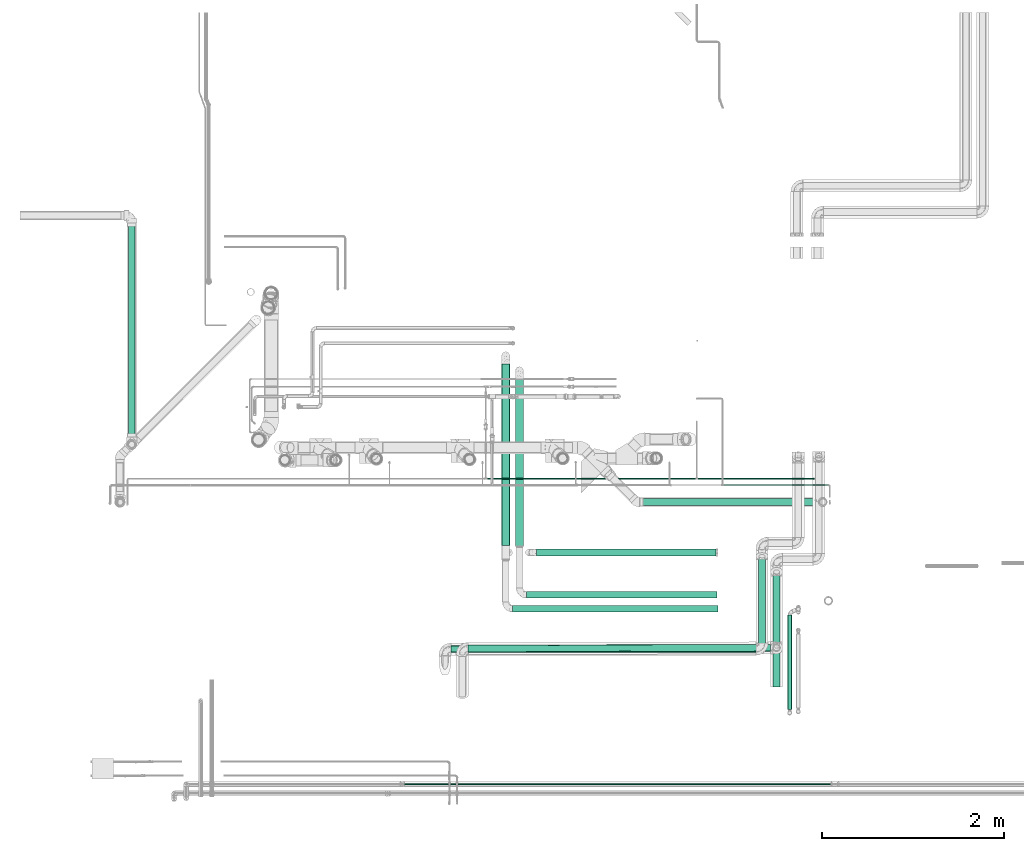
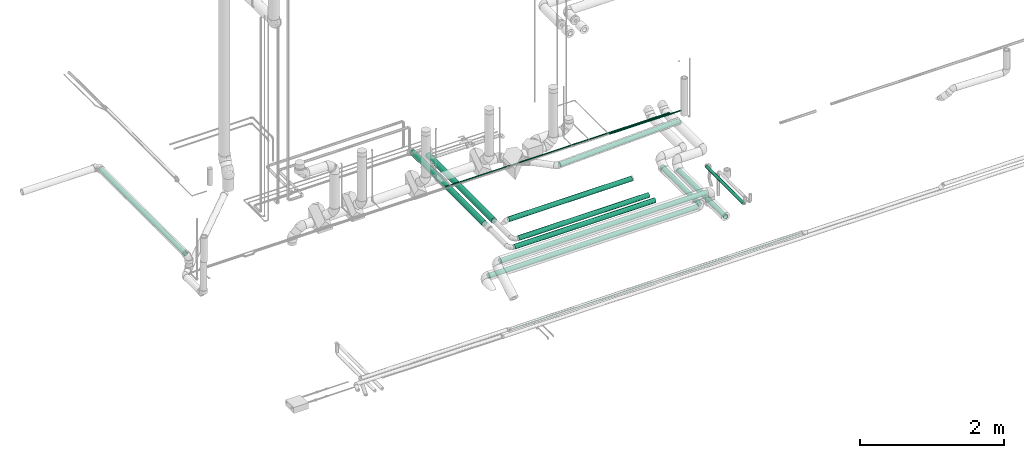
# One storey, part 46 of 156: 16 flow segments.
"""IFC2X3 building model written with IfcOpenShell, lengths in millimetres."""

from ifc_helpers import new_model, entity, si_unit, converted_unit, derived_unit, direction, frame, origin_with_axes, origin_2d_with_axis, place, context, subcontext, project, spatial, hollow_circle, extrude, source, transform, mapped, type_object, element, save


model = new_model("IFC2X3")

# Units and contexts
model_context = context("Model", 3, precision=0.01, world=frame((0.0, 4.29681676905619e-09, 0.0)), true_north=direction((4.01073788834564e-13, 1.0)))
plan_context = context("Plan", 3, precision=0.01, world=frame((0.0, 4.29681676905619e-09, 0.0)), true_north=direction((4.01073788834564e-13, 1.0)))
body_context = subcontext(model_context, "Body", "Model", "MODEL_VIEW")
ifc_project = project(units=[converted_unit("PLANEANGLEUNIT", "DEGREE", entity("IfcPositiveLengthMeasure", 0.0174532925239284), si_unit("PLANEANGLEUNIT", "RADIAN"), dimensions=[0, 0, 0, 0, 0, 0, 0]), si_unit("AREAUNIT", "SQUARE_METRE"), si_unit("LENGTHUNIT", "METRE", prefix="MILLI"), si_unit("MASSUNIT", "GRAM", prefix="KILO"), si_unit("POWERUNIT", "WATT"), si_unit("PRESSUREUNIT", "PASCAL", prefix="KILO"), si_unit("FORCEUNIT", "NEWTON", prefix="KILO"), si_unit("ELECTRICVOLTAGEUNIT", "VOLT"), si_unit("ELECTRICCURRENTUNIT", "AMPERE"), si_unit("THERMODYNAMICTEMPERATUREUNIT", "DEGREE_CELSIUS"), si_unit("TIMEUNIT", "SECOND"), si_unit("VOLUMEUNIT", "CUBIC_METRE"), derived_unit("LINEARVELOCITYUNIT", [(si_unit("LENGTHUNIT", "METRE"), 1), (si_unit("TIMEUNIT", "SECOND"), -1)]), derived_unit("VOLUMETRICFLOWRATEUNIT", [(si_unit("VOLUMEUNIT", "CUBIC_METRE"), 1), (si_unit("TIMEUNIT", "SECOND"), -1)]), derived_unit("THERMALTRANSMITTANCEUNIT", [(si_unit("POWERUNIT", "WATT"), 1), (si_unit("THERMODYNAMICTEMPERATUREUNIT", "KELVIN"), -1), (si_unit("AREAUNIT", "SQUARE_METRE"), -1)]), derived_unit("SOUNDPRESSUREUNIT", [(si_unit("PRESSUREUNIT", "PASCAL"), 1)])], contexts=[model_context, plan_context])

# Site, building, storey
site_placement = place(None, frame((0.0, -4.29681676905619e-09, 0.0), z_axis=(0.0, 0.0, 1.0), x_axis=(1.0, 0.0, 0.0)))
site = spatial("IfcSite", under=ifc_project, at=site_placement, CompositionType="ELEMENT")
building_placement = place(site_placement, frame((0.0, 4.29681676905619e-09, 0.0), z_axis=(0.0, 0.0, 1.0), x_axis=(1.0, 0.0, 0.0)))
building = spatial("IfcBuilding", under=site, at=building_placement, Name="mc-building", CompositionType="ELEMENT")
storey_placement = place(building_placement, frame((0.0, 0.0, 205200.0), z_axis=(0.0, 0.0, 1.0), x_axis=(1.0, 0.0, 0.0)))
storey = spatial("IfcBuildingStorey", under=building, at=storey_placement, Name="Nivå D + 1,2 m", CompositionType="ELEMENT", Elevation=205200.0)

# Flow segments
pipe_segment_type_1 = type_object("IfcPipeSegmentType", Name="Stålrør normaltykke", PredefinedType="RIGIDSEGMENT")
shared_shape_1 = source(origin_with_axes(), body_context, "Body", "SweptSolid", [
    extrude(hollow_circle(Radius=44.5, WallThickness=2.0, at=origin_2d_with_axis()), frame((0.0, 0.0, 0.0), z_axis=(1.0, 0.0, 0.0), x_axis=(0.0, 1.0, 0.0)), (0.0, 0.0, 1.0), 1995.6),
])
flow_segment_1_placement = place(storey_placement, frame((326883.94863, 461648.63973, 4038.0), z_axis=(0.0, 0.0, 1.0), x_axis=(0.0, 1.0, 0.0)))
element("IfcFlowSegment", 1, at=flow_segment_1_placement, inside=storey, type_object=pipe_segment_type_1, Name="Stålrør normaltykke", context=body_context, shape_type="MappedRepresentation", body=[
    mapped(shared_shape_1, transform((0.0, 0.0, 0.0), scale=1.0)),
])
shared_shape_2 = source(origin_with_axes(), body_context, "Body", "SweptSolid", [
    extrude(hollow_circle(Radius=44.5, WallThickness=2.0, at=origin_2d_with_axis()), frame((0.0, 0.0, 0.0), z_axis=(1.0, 0.0, 0.0), x_axis=(0.0, 1.0, 0.0)), (0.0, 0.0, 1.0), 1832.9),
])
flow_segment_2_placement = place(storey_placement, frame((327035.15172, 463479.55, 4038.0), z_axis=(0.0, 0.0, 1.0), x_axis=(0.0, -1.0, 0.0)))
element("IfcFlowSegment", 2, at=flow_segment_2_placement, inside=storey, type_object=pipe_segment_type_1, Name="Stålrør normaltykke", context=body_context, shape_type="MappedRepresentation", body=[
    mapped(shared_shape_2, transform((0.0, 0.0, 0.0), scale=1.0)),
])
pipe_segment_type_2 = type_object("IfcPipeSegmentType", Name="Kobberrør", PredefinedType="RIGIDSEGMENT")
shared_shape_3 = source(origin_with_axes(), body_context, "Body", "SweptSolid", [
    extrude(hollow_circle(Radius=7.5, WallThickness=2.0, at=origin_2d_with_axis()), frame((0.0, 0.0, 0.0), z_axis=(1.0, 0.0, 0.0), x_axis=(0.0, 1.0, 0.0)), (0.0, 0.0, 1.0), 1150.1),
])
flow_segment_3_placement = place(storey_placement, frame((329275.73717, 462313.63355, 4318.0), z_axis=(0.0, 0.0, 1.0), x_axis=(1.0, 0.0, 0.0)))
element("IfcFlowSegment", 3, at=flow_segment_3_placement, inside=storey, type_object=pipe_segment_type_2, Name="Kobberrør", context=body_context, shape_type="MappedRepresentation", body=[
    mapped(shared_shape_3, transform((0.0, 0.0, 0.0), scale=1.0)),
])
shared_shape_4 = source(origin_with_axes(), body_context, "Body", "SweptSolid", [
    extrude(hollow_circle(Radius=7.5, WallThickness=2.0, at=origin_2d_with_axis()), frame((0.0, 0.0, 0.0), z_axis=(1.0, 0.0, 0.0), x_axis=(0.0, 1.0, 0.0)), (0.0, 0.0, 1.0), 1278.1),
])
flow_segment_4_placement = place(storey_placement, frame((328993.34469, 462383.7286, 4285.29996), z_axis=(0.0, 0.0, 1.0), x_axis=(1.0, 0.0, 0.0)))
element("IfcFlowSegment", 4, at=flow_segment_4_placement, inside=storey, type_object=pipe_segment_type_2, Name="Kobberrør", context=body_context, shape_type="MappedRepresentation", body=[
    mapped(shared_shape_4, transform((0.0, 0.0, 0.0), scale=1.0)),
])
shared_shape_5 = source(origin_with_axes(), body_context, "Body", "SweptSolid", [
    extrude(hollow_circle(Radius=7.5, WallThickness=2.0, at=origin_2d_with_axis()), frame((0.0, 0.0, 0.0), z_axis=(1.0, 0.0, 0.0), x_axis=(0.0, 1.0, 0.0)), (0.0, 0.0, 1.0), 2285.8),
])
flow_segment_5_placement = place(storey_placement, frame((326683.49724, 462383.7286, 4285.29988999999), z_axis=(0.0, 0.0, 1.0), x_axis=(1.0, 0.0, 0.0)))
element("IfcFlowSegment", 5, at=flow_segment_5_placement, inside=storey, type_object=pipe_segment_type_2, Name="Kobberrør", context=body_context, shape_type="MappedRepresentation", body=[
    mapped(shared_shape_5, transform((0.0, 0.0, 0.0), scale=1.0)),
])
shared_shape_6 = source(origin_with_axes(), body_context, "Body", "SweptSolid", [
    extrude(hollow_circle(Radius=38.0, WallThickness=2.0, at=origin_2d_with_axis()), frame((0.0, 0.0, 0.0), z_axis=(1.0, 0.0, 0.0), x_axis=(0.0, 1.0, 0.0)), (0.0, 0.0, 1.0), 3350.0),
])
flow_segment_6_placement = place(storey_placement, frame((326282.42979, 460512.28647, 4048.81464), z_axis=(0.0, 0.927183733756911, 0.37460689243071), x_axis=(1.0, 0.0, 0.0)))
element("IfcFlowSegment", 6, at=flow_segment_6_placement, inside=storey, type_object=pipe_segment_type_1, Name="Stålrør normaltykke", context=body_context, shape_type="MappedRepresentation", body=[
    mapped(shared_shape_6, transform((0.0, 0.0, 0.0), scale=1.0)),
])
pipe_segment_type_3 = type_object("IfcPipeSegmentType", Name="MA", PredefinedType="RIGIDSEGMENT")
shared_shape_7 = source(origin_with_axes(), body_context, "Body", "SweptSolid", [
    extrude(hollow_circle(Radius=37.5, WallThickness=2.0, at=origin_2d_with_axis()), frame((0.0, 0.0, 0.0), z_axis=(1.0, 0.0, 0.0), x_axis=(0.0, 1.0, 0.0)), (0.0, 0.0, 1.0), 1929.7),
])
flow_segment_7_placement = place(storey_placement, frame((330284.94206, 462127.62223, 4301.94622000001), z_axis=(-0.0374270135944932, 1.0000003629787e-06, 0.999299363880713), x_axis=(-0.999299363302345, 3.40000123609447e-05, -0.0374270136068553)))
element("IfcFlowSegment", 7, at=flow_segment_7_placement, inside=storey, type_object=pipe_segment_type_3, Name="MA", context=body_context, shape_type="MappedRepresentation", body=[
    mapped(shared_shape_7, transform((0.0, 0.0, 0.0), scale=1.0)),
])
shared_shape_8 = source(origin_with_axes(), body_context, "Body", "SweptSolid", [
    extrude(hollow_circle(Radius=38.0, WallThickness=2.0, at=origin_2d_with_axis()), frame((0.0, 0.0, 0.0), z_axis=(1.0, 0.0, 0.0), x_axis=(0.0, 1.0, 0.0)), (0.0, 0.0, 1.0), 1313.3),
])
flow_segment_8_placement = place(storey_placement, frame((329857.40749, 461412.29785, 4053.20000000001), z_axis=(0.0, 0.0, 1.0), x_axis=(0.0, -1.0, 0.0)))
element("IfcFlowSegment", 8, at=flow_segment_8_placement, inside=storey, type_object=pipe_segment_type_1, Name="Stålrør normaltykke", context=body_context, shape_type="MappedRepresentation", body=[
    mapped(shared_shape_8, transform((0.0, 0.0, 0.0), scale=1.0)),
])
shared_shape_9 = source(origin_with_axes(), body_context, "Body", "SweptSolid", [
    extrude(hollow_circle(Radius=24.1, WallThickness=2.0, at=origin_2d_with_axis()), frame((0.0, 0.0, 0.0), z_axis=(1.0, 0.0, 0.0), x_axis=(0.0, 1.0, 0.0)), (0.0, 0.0, 1.0), 1032.3),
])
flow_segment_9_placement = place(storey_placement, frame((330001.54908, 460884.71904, 4381.03787), z_axis=(0.0, 5.09999999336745e-05, 0.9999999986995), x_axis=(0.0, -0.9999999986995, 5.09999999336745e-05)))
element("IfcFlowSegment", 9, at=flow_segment_9_placement, inside=storey, type_object=pipe_segment_type_1, Name="Stålrør normaltykke", context=body_context, shape_type="MappedRepresentation", body=[
    mapped(shared_shape_9, transform((0.0, 0.0, 0.0), scale=1.0)),
])
shared_shape_10 = source(origin_with_axes(), body_context, "Body", "SweptSolid", [
    extrude(hollow_circle(Radius=8.6, WallThickness=2.0, at=origin_2d_with_axis()), frame((0.0, 0.0, 0.0), z_axis=(1.0, 0.0, 0.0), x_axis=(0.0, 1.0, 0.0)), (0.0, 0.0, 1.0), 4687.5),
])
flow_segment_10_placement = place(storey_placement, frame((325768.73106, 459031.28638, 4218.32044000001), z_axis=(0.0, 0.0, 1.0), x_axis=(1.0, 0.0, 0.0)))
element("IfcFlowSegment", 10, at=flow_segment_10_placement, inside=storey, type_object=pipe_segment_type_1, Name="Stålrør normaltykke", context=body_context, shape_type="MappedRepresentation", body=[
    mapped(shared_shape_10, transform((0.0, 0.0, 0.0), scale=1.0)),
])
shared_shape_11 = source(origin_with_axes(), body_context, "Body", "SweptSolid", [
    extrude(hollow_circle(Radius=38.0, WallThickness=2.0, at=origin_2d_with_axis()), frame((0.0, 0.0, 0.0), z_axis=(1.0, 0.0, 0.0), x_axis=(0.0, 1.0, 0.0)), (0.0, 0.0, 1.0), 2092.6),
])
flow_segment_11_placement = place(storey_placement, frame((327111.35172, 461109.07753, 4038.0), z_axis=(0.0, 0.0, 1.0), x_axis=(1.0, 0.0, 0.0)))
element("IfcFlowSegment", 11, at=flow_segment_11_placement, inside=storey, type_object=pipe_segment_type_1, Name="Stålrør normaltykke", context=body_context, shape_type="MappedRepresentation", body=[
    mapped(shared_shape_11, transform((0.0, 0.0, 0.0), scale=1.0)),
])
shared_shape_12 = source(origin_with_axes(), body_context, "Body", "SweptSolid", [
    extrude(hollow_circle(Radius=38.0, WallThickness=2.0, at=origin_2d_with_axis()), frame((0.0, 0.0, 0.0), z_axis=(1.0, 0.0, 0.0), x_axis=(0.0, 1.0, 0.0)), (0.0, 0.0, 1.0), 2255.3),
])
flow_segment_12_placement = place(storey_placement, frame((326960.14863, 460955.93797, 4038.0), z_axis=(0.0, 0.0, 1.0), x_axis=(1.0, 0.0, 0.0)))
element("IfcFlowSegment", 12, at=flow_segment_12_placement, inside=storey, type_object=pipe_segment_type_1, Name="Stålrør normaltykke", context=body_context, shape_type="MappedRepresentation", body=[
    mapped(shared_shape_12, transform((0.0, 0.0, 0.0), scale=1.0)),
])
shared_shape_13 = source(origin_with_axes(), body_context, "Body", "SweptSolid", [
    extrude(hollow_circle(Radius=38.0, WallThickness=2.0, at=origin_2d_with_axis()), frame((0.0, 0.0, 0.0), z_axis=(1.0, 0.0, 0.0), x_axis=(0.0, 1.0, 0.0)), (0.0, 0.0, 1.0), 1973.4),
])
flow_segment_13_placement = place(storey_placement, frame((327220.74389, 461572.43973, 4038.0), z_axis=(0.0, 0.0, 1.0), x_axis=(1.0, 0.0, 0.0)))
element("IfcFlowSegment", 13, at=flow_segment_13_placement, inside=storey, type_object=pipe_segment_type_1, Name="Stålrør normaltykke", context=body_context, shape_type="MappedRepresentation", body=[
    mapped(shared_shape_13, transform((0.0, 0.0, 0.0), scale=1.0)),
])
shared_shape_14 = source(origin_with_axes(), body_context, "Body", "SweptSolid", [
    extrude(hollow_circle(Radius=38.0, WallThickness=2.0, at=origin_2d_with_axis()), frame((0.0, 0.0, 0.0), z_axis=(1.0, 0.0, 0.0), x_axis=(0.0, 1.0, 0.0)), (0.0, 0.0, 1.0), 3320.1),
])
flow_segment_14_placement = place(storey_placement, frame((326472.30618, 460519.21427, 4232.60000000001), z_axis=(0.0, 0.0, 1.0), x_axis=(0.999997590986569, 0.00219499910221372, 0.0)))
element("IfcFlowSegment", 14, at=flow_segment_14_placement, inside=storey, type_object=pipe_segment_type_1, Name="Stålrør normaltykke", context=body_context, shape_type="MappedRepresentation", body=[
    mapped(shared_shape_14, transform((0.0, 0.0, 0.0), scale=1.0)),
])
shared_shape_15 = source(origin_with_axes(), body_context, "Body", "SweptSolid", [
    extrude(hollow_circle(Radius=37.5, WallThickness=2.0, at=origin_2d_with_axis()), frame((0.0, 0.0, 0.0), z_axis=(1.0, 0.0, 0.0), x_axis=(0.0, 1.0, 0.0)), (0.0, 0.0, 1.0), 2347.1),
])
flow_segment_15_placement = place(storey_placement, frame((322778.39808, 465189.45462, 4241.63939), z_axis=(0.0, 0.0, 1.0), x_axis=(0.0, -1.0, 0.0)))
element("IfcFlowSegment", 15, at=flow_segment_15_placement, inside=storey, type_object=pipe_segment_type_3, Name="MA", context=body_context, shape_type="MappedRepresentation", body=[
    mapped(shared_shape_15, transform((0.0, 0.0, 0.0), scale=1.0)),
])
shared_shape_16 = source(origin_with_axes(), body_context, "Body", "SweptSolid", [
    extrude(hollow_circle(Radius=38.0, WallThickness=2.0, at=origin_2d_with_axis()), frame((0.0, 0.0, 0.0), z_axis=(1.0, 0.0, 0.0), x_axis=(0.0, 1.0, 0.0)), (0.0, 0.0, 1.0), 1038.4),
])
flow_segment_16_placement = place(storey_placement, frame((329697.43013, 461587.43978, 4053.22602), z_axis=(0.0, 0.0, 1.0), x_axis=(0.0, -1.0, 0.0)))
element("IfcFlowSegment", 16, at=flow_segment_16_placement, inside=storey, type_object=pipe_segment_type_1, Name="Stålrør normaltykke", context=body_context, shape_type="MappedRepresentation", body=[
    mapped(shared_shape_16, transform((0.0, 0.0, 0.0), scale=1.0)),
])

save(model, "model.ifc")
